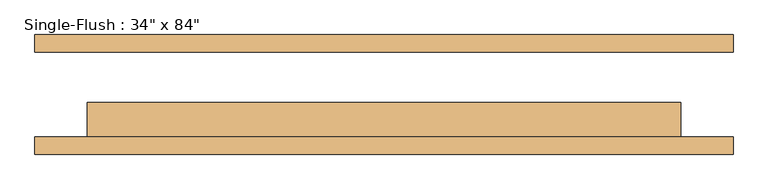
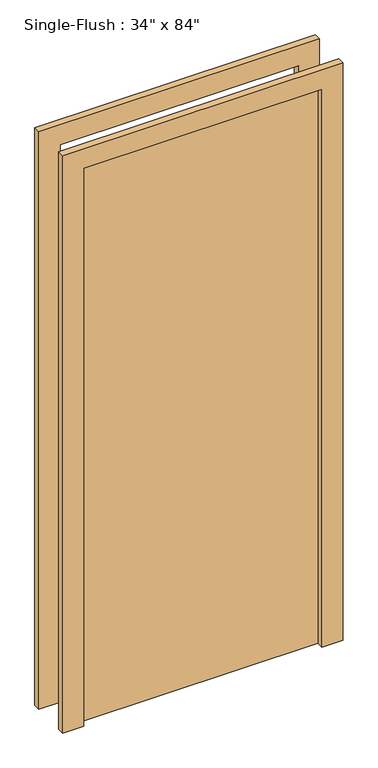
"""IFC4 building model written with IfcOpenShell, lengths in millimetres: door geometry."""

from ifc_helpers import new_model, si_unit, frame, origin, origin_with_axes, place, context, project, spatial, polyline, outline, extrude, source, transform, mapped, element, save


def door_3b0d1d25(model_context):
    return source(origin(), model_context, "Body", "SweptSolid", [
        extrude(outline(polyline([(2209.8, -508.0), (0.0, -508.0), (0.0, -431.8), (2133.6, -431.8), (2133.6, 431.8), (0.0, 431.8), (0.0, 508.0), (2209.8, 508.0), (2209.8, -508.0)])), frame((0.0, -87.3125, 0.0), z_axis=(0.0, 1.0, 0.0), x_axis=(0.0, 0.0, 1.0)), (0.0, 0.0, 1.0), 25.4),
        extrude(outline(polyline([(2209.8, 508.0), (2209.8, -508.0), (0.0, -508.0), (0.0, -431.8), (2133.6, -431.8), (2133.6, 431.8), (0.0, 431.8), (0.0, 508.0), (2209.8, 508.0)])), frame((0.0, 61.9125, 0.0), z_axis=(0.0, 1.0, 0.0), x_axis=(0.0, 0.0, 1.0)), (0.0, 0.0, 1.0), 25.4),
        extrude(outline(polyline([(431.8, -11.1125), (431.8, -61.9125), (-431.8, -61.9125), (-431.8, -11.1125), (431.8, -11.1125)])), origin_with_axes(), (0.0, 0.0, 1.0), 2133.6),
    ])


if __name__ == "__main__":
    model = new_model("IFC4")
    model_context = context("Model", 3, world=origin())
    ifc_project = project(units=[si_unit("LENGTHUNIT", "METRE", prefix="MILLI")], contexts=[model_context])
    site = spatial("IfcSite", under=ifc_project)
    building = spatial("IfcBuilding", under=site)
    placement = place(None, origin())
    door_shape = door_3b0d1d25(model_context)
    element("IfcDoor", 1, ObjectType="Single-Flush : 34\" x 84\"", at=placement, inside=building, context=model_context, shape_type="MappedRepresentation", body=[
        mapped(door_shape, transform((0.0, 0.0, 0.0), x_axis=(1.0, 0.0, 0.0), y_axis=(0.0, 1.0, 0.0), z_axis=(0.0, 0.0, 1.0))),
    ])
    save(model, "model.ifc")
